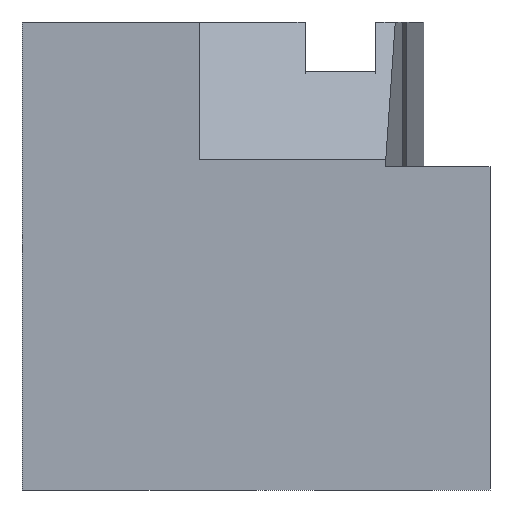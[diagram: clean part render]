
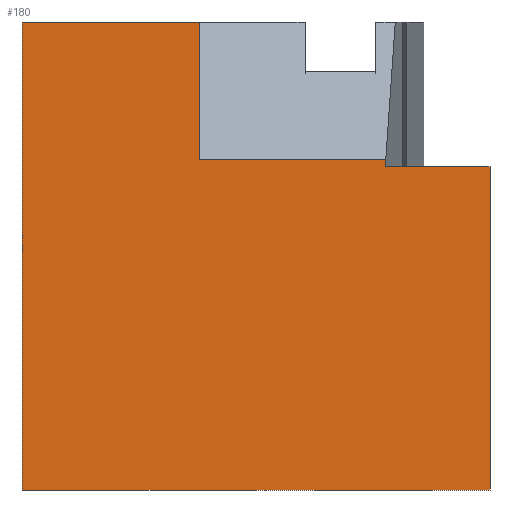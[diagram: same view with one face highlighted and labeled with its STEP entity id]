
A CAD part, left-side view. The second image highlights one B-rep face of the part: STEP entity #180.
In plain terms, the highlighted planar face has unit normal (-1, 0, 0).
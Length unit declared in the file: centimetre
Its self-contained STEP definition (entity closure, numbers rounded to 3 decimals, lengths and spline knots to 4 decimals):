
#31 = DIRECTION ( 'NONE',  ( 0., 0., -1. ) ) ;
#44 = VECTOR ( 'NONE', #887, 100. ) ;
#56 = CARTESIAN_POINT ( 'NONE',  ( 0., 620.4179, 1000. ) ) ;
#60 = ORIENTED_EDGE ( 'NONE', *, *, #317, .F. ) ;
#67 = VECTOR ( 'NONE', #693, 100. ) ;
#75 = EDGE_CURVE ( 'NONE', #1266, #179, #255, .T. ) ;
#83 = CARTESIAN_POINT ( 'NONE',  ( 0., 0., 1000. ) ) ;
#85 = VERTEX_POINT ( 'NONE', #875 ) ;
#133 = ORIENTED_EDGE ( 'NONE', *, *, #389, .F. ) ;
#137 = CARTESIAN_POINT ( 'NONE',  ( 0., 620.4179, 1000. ) ) ;
#147 = ORIENTED_EDGE ( 'NONE', *, *, #75, .T. ) ;
#154 = CARTESIAN_POINT ( 'NONE',  ( 0., 222.7587, 706.6641 ) ) ;
#179 = VERTEX_POINT ( 'NONE', #810 ) ;
#180 = ADVANCED_FACE ( 'NONE', ( #895 ), #992, .F. ) ;
#199 = EDGE_CURVE ( 'NONE', #179, #650, #515, .T. ) ;
#200 = LINE ( 'NONE', #1006, #624 ) ;
#215 = CARTESIAN_POINT ( 'NONE',  ( 0., 0., 690.6213 ) ) ;
#239 = VERTEX_POINT ( 'NONE', #154 ) ;
#245 = CARTESIAN_POINT ( 'NONE',  ( 0., 1000., 1000. ) ) ;
#255 = LINE ( 'NONE', #595, #954 ) ;
#276 = ORIENTED_EDGE ( 'NONE', *, *, #666, .F. ) ;
#280 = DIRECTION ( 'NONE',  ( 0., 0., -1. ) ) ;
#281 = VECTOR ( 'NONE', #1187, 100. ) ;
#293 = CARTESIAN_POINT ( 'NONE',  ( 0., 1000., 0. ) ) ;
#317 = EDGE_CURVE ( 'NONE', #1278, #85, #928, .T. ) ;
#389 = EDGE_CURVE ( 'NONE', #1266, #1278, #200, .T. ) ;
#408 = DIRECTION ( 'NONE',  ( 1., 0., 0. ) ) ;
#410 = LINE ( 'NONE', #83, #44 ) ;
#417 = ORIENTED_EDGE ( 'NONE', *, *, #956, .F. ) ;
#462 = EDGE_CURVE ( 'NONE', #699, #239, #785, .T. ) ;
#496 = VERTEX_POINT ( 'NONE', #215 ) ;
#514 = CARTESIAN_POINT ( 'NONE',  ( 0., 222.7587, 690.6213 ) ) ;
#515 = LINE ( 'NONE', #293, #67 ) ;
#595 = CARTESIAN_POINT ( 'NONE',  ( 0., 1000., 1000. ) ) ;
#624 = VECTOR ( 'NONE', #901, 100. ) ;
#640 = VECTOR ( 'NONE', #882, 100. ) ;
#650 = VERTEX_POINT ( 'NONE', #1058 ) ;
#666 = EDGE_CURVE ( 'NONE', #699, #496, #981, .T. ) ;
#693 = DIRECTION ( 'NONE',  ( 0., -1., 0. ) ) ;
#699 = VERTEX_POINT ( 'NONE', #1167 ) ;
#711 = EDGE_CURVE ( 'NONE', #496, #650, #410, .T. ) ;
#785 = LINE ( 'NONE', #514, #640 ) ;
#798 = CARTESIAN_POINT ( 'NONE',  ( 0., 1000., 1000. ) ) ;
#810 = CARTESIAN_POINT ( 'NONE',  ( 0., 1000., 0. ) ) ;
#838 = VECTOR ( 'NONE', #31, 100. ) ;
#851 = ORIENTED_EDGE ( 'NONE', *, *, #711, .F. ) ;
#875 = CARTESIAN_POINT ( 'NONE',  ( 0., 620.4179, 706.6641 ) ) ;
#882 = DIRECTION ( 'NONE',  ( 0., 0., 1. ) ) ;
#887 = DIRECTION ( 'NONE',  ( 0., 0., -1. ) ) ;
#895 = FACE_OUTER_BOUND ( 'NONE', #1049, .T. ) ;
#901 = DIRECTION ( 'NONE',  ( 0., -1., 0. ) ) ;
#928 = LINE ( 'NONE', #137, #838 ) ;
#954 = VECTOR ( 'NONE', #280, 100. ) ;
#956 = EDGE_CURVE ( 'NONE', #85, #239, #993, .T. ) ;
#957 = VECTOR ( 'NONE', #1182, 100. ) ;
#981 = LINE ( 'NONE', #1087, #281 ) ;
#992 = PLANE ( 'NONE',  #1213 ) ;
#993 = LINE ( 'NONE', #1086, #957 ) ;
#1006 = CARTESIAN_POINT ( 'NONE',  ( 0., 1000., 1000. ) ) ;
#1049 = EDGE_LOOP ( 'NONE', ( #1249, #417, #60, #133, #147, #1241, #851, #276 ) ) ;
#1058 = CARTESIAN_POINT ( 'NONE',  ( 0., 0., 0. ) ) ;
#1086 = CARTESIAN_POINT ( 'NONE',  ( 0., 620.4179, 706.6641 ) ) ;
#1087 = CARTESIAN_POINT ( 'NONE',  ( 0., 222.7587, 690.6213 ) ) ;
#1167 = CARTESIAN_POINT ( 'NONE',  ( 0., 222.7587, 690.6213 ) ) ;
#1182 = DIRECTION ( 'NONE',  ( 0., -1., 0. ) ) ;
#1187 = DIRECTION ( 'NONE',  ( 0., -1., 0. ) ) ;
#1201 = DIRECTION ( 'NONE',  ( 0., 0., -1. ) ) ;
#1213 = AXIS2_PLACEMENT_3D ( 'NONE', #798, #408, #1201 ) ;
#1241 = ORIENTED_EDGE ( 'NONE', *, *, #199, .T. ) ;
#1249 = ORIENTED_EDGE ( 'NONE', *, *, #462, .T. ) ;
#1266 = VERTEX_POINT ( 'NONE', #245 ) ;
#1278 = VERTEX_POINT ( 'NONE', #56 ) ;
